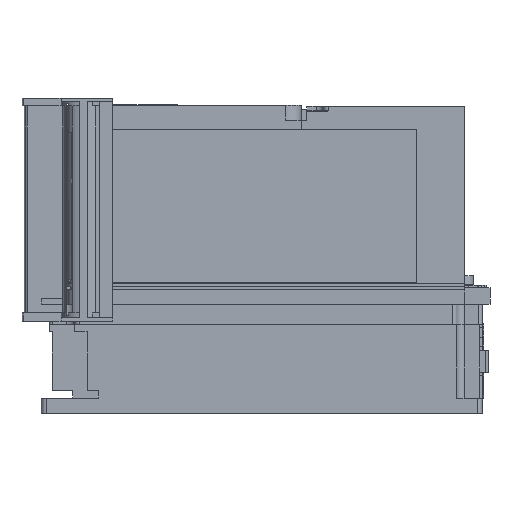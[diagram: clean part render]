
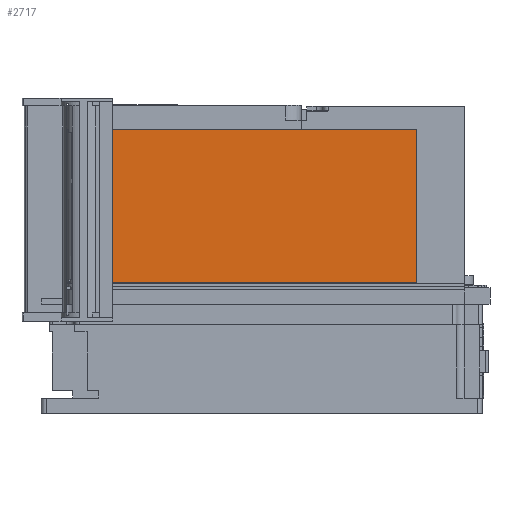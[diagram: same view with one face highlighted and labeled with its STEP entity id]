
A CAD part, left-side view. The second image highlights one B-rep face of the part: STEP entity #2717.
In plain terms, the highlighted planar face has unit normal (-1, 0, 0).
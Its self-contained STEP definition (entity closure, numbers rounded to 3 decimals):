
#2717=ADVANCED_FACE('',(#8636),#8637,.T.);
#8636=FACE_OUTER_BOUND('',#16507,.T.);
#8637=PLANE('',#16508);
#16507=EDGE_LOOP('',(#41148,#41149,#41150,#41151));
#16508=AXIS2_PLACEMENT_3D('',#41152,#41153,#41154);
#41148=ORIENTED_EDGE('',*,*,#54235,.F.);
#41149=ORIENTED_EDGE('',*,*,#54236,.F.);
#41150=ORIENTED_EDGE('',*,*,#54237,.T.);
#41151=ORIENTED_EDGE('',*,*,#54217,.T.);
#41152=CARTESIAN_POINT('',(-65.,142.0,83.0));
#41153=DIRECTION('',(-1.0,0.0,0.0));
#41154=DIRECTION('',(0.0,0.0,1.0));
#54217=EDGE_CURVE('',#67898,#67896,#67899,.T.);
#54235=EDGE_CURVE('',#67929,#67896,#67931,.T.);
#54236=EDGE_CURVE('',#67932,#67929,#67933,.T.);
#54237=EDGE_CURVE('',#67932,#67898,#67934,.T.);
#67896=VERTEX_POINT('',#92344);
#67898=VERTEX_POINT('',#92346);
#67899=LINE('',#92347,#92348);
#67929=VERTEX_POINT('',#92389);
#67931=LINE('',#92392,#92393);
#67932=VERTEX_POINT('',#92394);
#67933=LINE('',#92395,#92396);
#67934=LINE('',#92397,#92398);
#92344=CARTESIAN_POINT('',(-65.,116.0,83.0));
#92346=CARTESIAN_POINT('',(-65.,116.0,179.8));
#92347=CARTESIAN_POINT('',(-65.,116.0,179.8));
#92348=VECTOR('',#106512,96.8);
#92389=CARTESIAN_POINT('',(-65.,-95.5,83.0));
#92392=CARTESIAN_POINT('',(-65.,-95.5,83.0));
#92393=VECTOR('',#106540,211.5);
#92394=CARTESIAN_POINT('',(-65.,-95.5,179.8));
#92395=CARTESIAN_POINT('',(-65.,-95.5,179.8));
#92396=VECTOR('',#106541,96.8);
#92397=CARTESIAN_POINT('',(-65.,-95.5,179.8));
#92398=VECTOR('',#106542,211.5);
#106512=DIRECTION('',(0.0,0.0,-1.0));
#106540=DIRECTION('',(0.0,1.0,0.0));
#106541=DIRECTION('',(0.0,0.0,-1.0));
#106542=DIRECTION('',(0.0,1.0,0.0));
